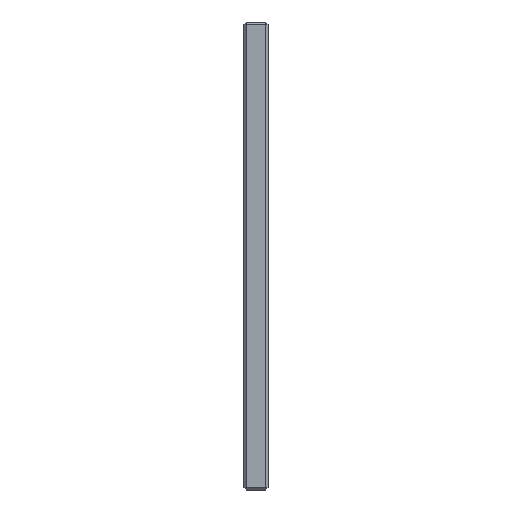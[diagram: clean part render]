
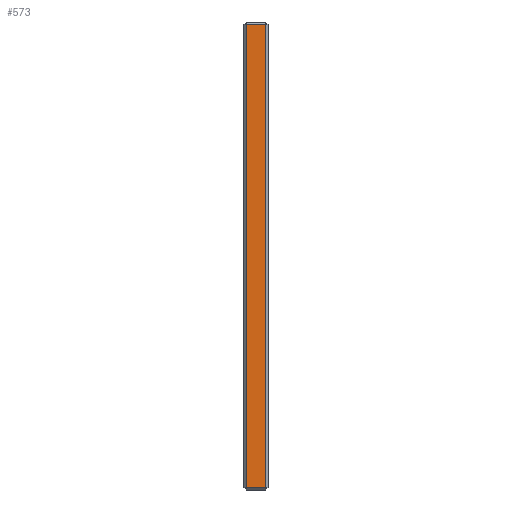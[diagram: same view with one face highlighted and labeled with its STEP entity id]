
A CAD part, left-side view. The second image highlights one B-rep face of the part: STEP entity #573.
In plain terms, the highlighted planar face has unit normal (-1, 0, 0).
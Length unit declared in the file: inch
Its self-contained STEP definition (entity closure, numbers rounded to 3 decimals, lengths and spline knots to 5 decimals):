
#7 = CARTESIAN_POINT ( 'NONE',  ( -5.875, 0.45, 4.825 ) ) ;
#245 = ORIENTED_EDGE ( 'NONE', *, *, #1202, .T. ) ;
#282 = VERTEX_POINT ( 'NONE', #635 ) ;
#307 = EDGE_LOOP ( 'NONE', ( #607, #245, #1239, #1086 ) ) ;
#311 = VERTEX_POINT ( 'NONE', #374 ) ;
#348 = VERTEX_POINT ( 'NONE', #638 ) ;
#374 = CARTESIAN_POINT ( 'NONE',  ( -5.875, 0.05, 4.825 ) ) ;
#390 = AXIS2_PLACEMENT_3D ( 'NONE', #1557, #1131, #1563 ) ;
#515 = LINE ( 'NONE', #955, #683 ) ;
#573 = ADVANCED_FACE ( 'Placement Plane', ( #1068 ), #1280, .F. ) ;
#607 = ORIENTED_EDGE ( 'NONE', *, *, #713, .T. ) ;
#632 = DIRECTION ( 'NONE',  ( 0., 0., 1. ) ) ;
#635 = CARTESIAN_POINT ( 'NONE',  ( -5.875, 0.45, -4.825 ) ) ;
#638 = CARTESIAN_POINT ( 'NONE',  ( -5.875, 0.05, -4.825 ) ) ;
#657 = EDGE_CURVE ( 'NONE', #311, #1699, #739, .T. ) ;
#672 = DIRECTION ( 'NONE',  ( 0., -1., 0. ) ) ;
#683 = VECTOR ( 'NONE', #672, 39.37008 ) ;
#713 = EDGE_CURVE ( 'NONE', #1699, #282, #1506, .T. ) ;
#739 = LINE ( 'NONE', #1680, #782 ) ;
#782 = VECTOR ( 'NONE', #1568, 39.37008 ) ;
#912 = CARTESIAN_POINT ( 'NONE',  ( -5.875, 0.45, -4.875 ) ) ;
#955 = CARTESIAN_POINT ( 'NONE',  ( -5.875, 0.5, -4.825 ) ) ;
#959 = VECTOR ( 'NONE', #632, 39.37008 ) ;
#1068 = FACE_OUTER_BOUND ( 'NONE', #307, .T. ) ;
#1086 = ORIENTED_EDGE ( 'NONE', *, *, #657, .T. ) ;
#1131 = DIRECTION ( 'NONE',  ( 1., 0., 0. ) ) ;
#1138 = EDGE_CURVE ( 'NONE', #348, #311, #1335, .T. ) ;
#1202 = EDGE_CURVE ( 'NONE', #282, #348, #515, .T. ) ;
#1239 = ORIENTED_EDGE ( 'NONE', *, *, #1138, .T. ) ;
#1280 = PLANE ( 'NONE',  #390 ) ;
#1309 = DIRECTION ( 'NONE',  ( 0., 0., -1. ) ) ;
#1335 = LINE ( 'NONE', #1610, #959 ) ;
#1471 = VECTOR ( 'NONE', #1309, 39.37008 ) ;
#1506 = LINE ( 'NONE', #912, #1471 ) ;
#1557 = CARTESIAN_POINT ( 'NONE',  ( -5.875, 0.5, -4.875 ) ) ;
#1563 = DIRECTION ( 'NONE',  ( 0., 0., -1. ) ) ;
#1568 = DIRECTION ( 'NONE',  ( 0., 1., 0. ) ) ;
#1610 = CARTESIAN_POINT ( 'NONE',  ( -5.875, 0.05, -4.875 ) ) ;
#1680 = CARTESIAN_POINT ( 'NONE',  ( -5.875, 0.5, 4.825 ) ) ;
#1699 = VERTEX_POINT ( 'NONE', #7 ) ;
